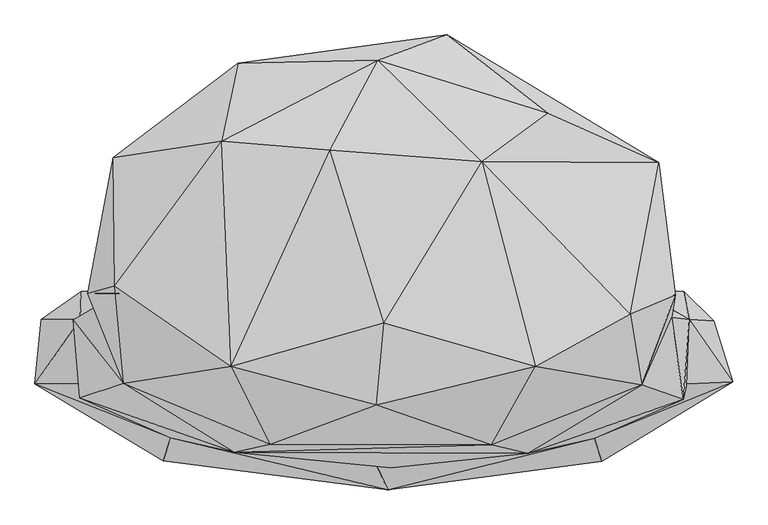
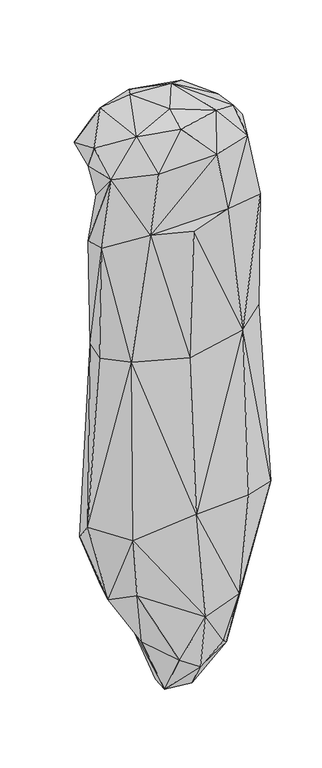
"""IFC4 building model written with IfcOpenShell, lengths in millimetres: geographic element geometry, Enscape AssetDefinition - Creeper Plant 021 Bower Vine : Enscape AssetDefinition - Creeper Plant 021 Bower Vine."""

from ifc_helpers import new_model, si_unit, origin, place, context, project, spatial, faceted_brep, source, transform, mapped, element, save


def geographic_element_f46679e8(model_context):
    return source(origin(), model_context, "Body", "Brep", [
        faceted_brep([(-240.7220006, 388.3830011, 3.1900001), (466.2950039, 221.1129963, 11.7330002), (-450.0170052, 229.2219996, 3.304), (110.3219986, 435.6180131, 3.2619999), (493.400991, -1.187, 1.733), (279.4530094, 304.2699993, 117.9239973), (169.0019965, 222.4780023, 188.9840066), (417.9689884, -33.3300009, 106.4909995), (-5.566, 393.009007, 104.6580002), (-268.2299912, 256.8260133, 153.1279981), (-85.9749988, 242.057994, 192.1550035), (4.067, -48.2789986, 237.0110005), (258.5600019, -121.4599982, 182.6770008), (437.6440048, -152.511999, -29.2860009), (184.6310049, -253.4739971, -8.9429999), (-7.7789999, -186.1899942, 184.9720031), (-252.2000074, -121.5870008, 183.247), (-447.5370049, 13.7369996, 89.9540037), (-186.9000047, -252.3730099, -12.7769997), (-432.3819876, -149.7640014, -28.012), (-246.8120009, -265.9170032, -395.5950141), (246.2799996, -266.8989897, -390.6370103), (-506.2459707, -173.9050001, -450.4750073), (-353.6570072, -241.256997, -1232.4479818), (-7.7479999, -287.4319851, -1294.7499752), (15.9179997, -291.7259932, -445.7010031), (357.4950099, -241.8089956, -1259.8509789), (507.1949959, -176.7649949, -433.5489869), (10.7810004, -328.2549977, -2331.5439224), (589.9890065, -147.2820044, -2417.4389839), (512.7230287, -150.8920044, -1200.3619671), (370.5630004, -280.1890075, -2354.0771008), (517.1359777, -42.5859988, -1198.7700462), (487.4539971, -38.8909988, -205.0489932), (432.4429929, 5.5479999, -199.3830055), (-493.400991, 1.187, -1.733), (-432.8620136, 5.3929999, -1239.6039963), (437.7680123, 5.3929999, -1239.6039963), (-439.8570061, 1.762, -217.4399942), (-505.8119893, -42.1850011, -1175.2990484), (-517.6420212, -43.5060002, -472.4229872), (-503.8999915, 5.415, -2448.6429691), (507.7700019, 5.3929999, -2369.6498871), (362.7919853, 5.2339998, -3160.6860161), (-417.580992, -6.9860001, -2855.0410271), (-571.582973, -42.3999988, -2454.2839527), (558.7729812, -44.3920009, -2588.5510445), (383.9299977, -45.7589999, -3213.7908936), (302.1079898, -153.4949988, -3401.9908905), (319.0509975, -271.1220086, -3007.1899891), (231.5420061, -244.8109984, -3314.5020008), (82.4500024, -301.7309904, -3063.6949539), (76.7700002, -254.5869946, -3427.9088974), (-57.8889996, -256.200999, -3337.1109962), (-319.8359907, -241.3100004, -2819.2090988), (-366.715014, -279.7630131, -2409.4381332), (-452.7930021, -154.1229934, -2854.1870117), (-581.8650126, -150.383994, -2319.6380138), (-241.5589988, -155.1699936, -3208.0180645), (-91.3299993, -152.1569937, -3584.3410492), (-218.9439982, -9.8980004, -3207.4429989), (-507.8909993, -150.7039964, -1204.8159838), (-82.3199973, 4.9979999, -3498.2919693), (96.8699977, 14.7879999, -3504.9819946), (142.1249956, -39.4320004, -3579.8659325), (-84.0499997, -39.4949988, -3588.8681412), (85.0140005, -151.7779976, -3601.6669273)], [[[0, 1, 2]], [[1, 0, 3]], [[2, 1, 4]], [[3, 5, 1]], [[1, 5, 6]], [[7, 4, 1]], [[1, 6, 7]], [[8, 3, 0]], [[2, 9, 0]], [[0, 9, 8]], [[8, 5, 3]], [[6, 5, 8]], [[6, 8, 10]], [[11, 12, 6]], [[11, 6, 10]], [[12, 7, 6]], [[7, 12, 13]], [[13, 4, 7]], [[13, 12, 14]], [[15, 12, 11]], [[15, 14, 12]], [[16, 15, 11]], [[11, 10, 16]], [[10, 8, 9]], [[16, 10, 9]], [[17, 16, 9]], [[17, 9, 2]], [[18, 16, 19]], [[18, 15, 16]], [[19, 16, 17]], [[18, 14, 15]], [[20, 18, 19]], [[20, 14, 18]], [[21, 14, 20]], [[21, 13, 14]], [[22, 20, 19]], [[23, 20, 22]], [[23, 24, 20]], [[25, 21, 20]], [[20, 24, 25]], [[26, 21, 25]], [[21, 27, 13]], [[27, 21, 26]], [[24, 26, 25]], [[28, 24, 23]], [[28, 26, 24]], [[29, 30, 26]], [[26, 30, 27]], [[31, 29, 26]], [[28, 31, 26]], [[32, 33, 27]], [[27, 33, 13]], [[30, 32, 27]], [[13, 33, 4]], [[34, 4, 33]], [[32, 34, 33]], [[35, 4, 34]], [[4, 35, 2]], [[36, 34, 37]], [[38, 34, 36]], [[38, 35, 34]], [[37, 34, 32]], [[19, 17, 35]], [[38, 19, 35]], [[35, 17, 2]], [[36, 39, 38]], [[38, 39, 40]], [[40, 19, 38]], [[37, 41, 36]], [[41, 39, 36]], [[41, 37, 42]], [[32, 42, 37]], [[41, 42, 43]], [[41, 43, 44]], [[45, 39, 41]], [[41, 44, 45]], [[46, 42, 32]], [[43, 42, 46]], [[29, 32, 30]], [[29, 46, 32]], [[47, 46, 48]], [[46, 47, 43]], [[48, 46, 29]], [[48, 29, 49]], [[49, 29, 31]], [[50, 48, 49]], [[49, 31, 28]], [[51, 49, 28]], [[51, 50, 49]], [[48, 50, 52]], [[52, 50, 51]], [[52, 51, 53]], [[54, 51, 55]], [[53, 51, 54]], [[55, 51, 28]], [[55, 28, 23]], [[54, 55, 56]], [[55, 23, 57]], [[56, 55, 57]], [[58, 53, 54]], [[58, 54, 56]], [[59, 52, 53]], [[53, 58, 59]], [[58, 60, 59]], [[56, 44, 58]], [[58, 44, 60]], [[57, 45, 56]], [[56, 45, 44]], [[57, 61, 39]], [[45, 57, 39]], [[23, 61, 57]], [[23, 22, 61]], [[22, 39, 61]], [[22, 40, 39]], [[22, 19, 40]], [[60, 44, 43]], [[43, 62, 60]], [[62, 43, 63]], [[47, 64, 43]], [[64, 63, 43]], [[65, 62, 63]], [[62, 65, 60]], [[63, 64, 65]], [[64, 47, 48]], [[66, 65, 64]], [[66, 64, 48]], [[59, 65, 66]], [[59, 60, 65]], [[66, 52, 59]], [[52, 66, 48]]]),
    ])


if __name__ == "__main__":
    model = new_model("IFC4")
    model_context = context("Model", 3, world=origin())
    ifc_project = project(units=[si_unit("LENGTHUNIT", "METRE", prefix="MILLI")], contexts=[model_context])
    site = spatial("IfcSite", under=ifc_project)
    building = spatial("IfcBuilding", under=site)
    placement = place(None, origin())
    geographic_element_shape = geographic_element_f46679e8(model_context)
    element("IfcGeographicElement", 1, ObjectType="Enscape AssetDefinition - Creeper Plant 021 Bower Vine : Enscape AssetDefinition - Creeper Plant 021 Bower Vine", at=placement, inside=building, context=model_context, shape_type="MappedRepresentation", body=[
        mapped(geographic_element_shape, transform((0.0, 0.0, 0.0), x_axis=(1.0, 0.0, 0.0), y_axis=(0.0, 1.0, 0.0), z_axis=(0.0, 0.0, 1.0))),
    ])
    save(model, "model.ifc")
